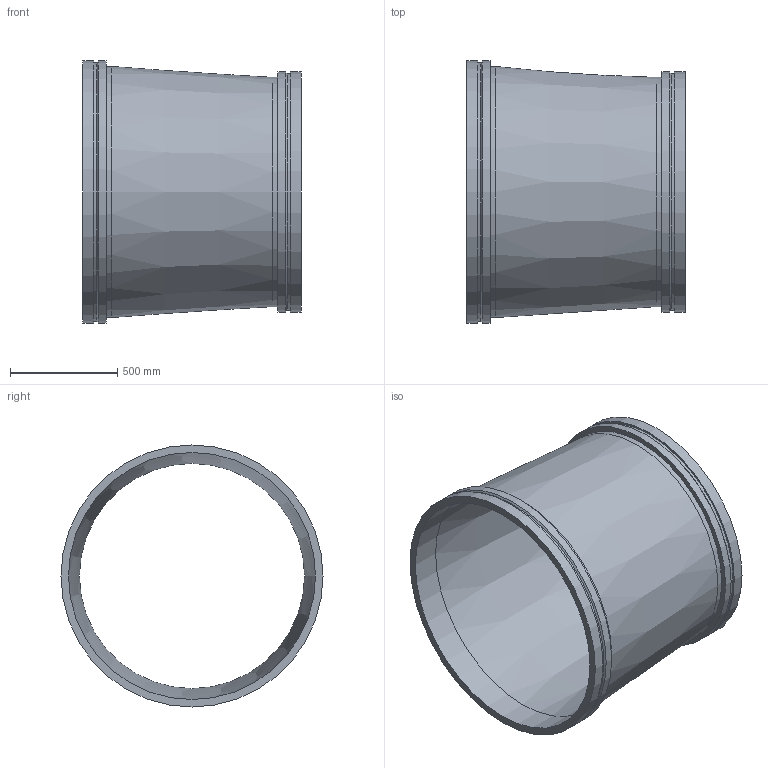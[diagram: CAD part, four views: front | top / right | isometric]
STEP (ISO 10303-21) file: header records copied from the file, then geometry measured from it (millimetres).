
FILE_DESCRIPTION(/* description */ ('VIC REDUCER CONCENTRIC No W50 VR','CAx-IF Rec.Pracs.---Representation and Presentation of Product Manufacturing Information (PMI)---4.0---2014-10-13'),/* implementation_level */ '2;1');
FILE_NAME(/* name */ 'C:\Users\kkamble\AppData\Roaming\Autodesk\ApplicationPlugins\Back Up\Victaulic_Vic-Ring_Reducer Concentric_No W50 VR (AGR)\Victaulic_Vic-Ring_Reducer Concentric_No W50 VR (AGR)_46.0x42.0 (1150x1050).stp',/* time_stamp */ '2020-09-10T11:47:53+05:00',/* author */ ('cps_temp'),/* organization */ ('Victaulic'),/* preprocessor_version */ 'ST-DEVELOPER v17.2',/* originating_system */ 'Autodesk Inventor 2019',/* authorisation */ '');
FILE_SCHEMA (('AP242_MANAGED_MODEL_BASED_3D_ENGINEERING_MIM_LF { 1 0 10303 442 1 1 4 }'));
Length unit declared in the file: inch
Products named in the file (1): W50 VR-46.0x42.0
Bounding box: 1016 x 1219.2 x 1219.2 mm (x, y, z)
Volume: 52360523.3 mm3; surface area: 7634320 mm2
Topology: 1 solids, 1 shells, 20 faces, 54 edges, 40 vertices
Faces by surface type: cylinder 10, plane 6, cone 4
Full cylindrical faces by diameter (mm): 1047.75 x1, 1066.8 x1, 1101.725 x1, 1117.6 x2, 1149.35 x1, 1168.4 x1, 1203.325 x1, 1219.2 x2
Entity records: 830 total; most frequent: DIRECTION 162, CARTESIAN_POINT 132, ORIENTED_EDGE 108, AXIS2_PLACEMENT_3D 74, EDGE_CURVE 54, CIRCLE 40, VERTEX_POINT 40, EDGE_LOOP 26
